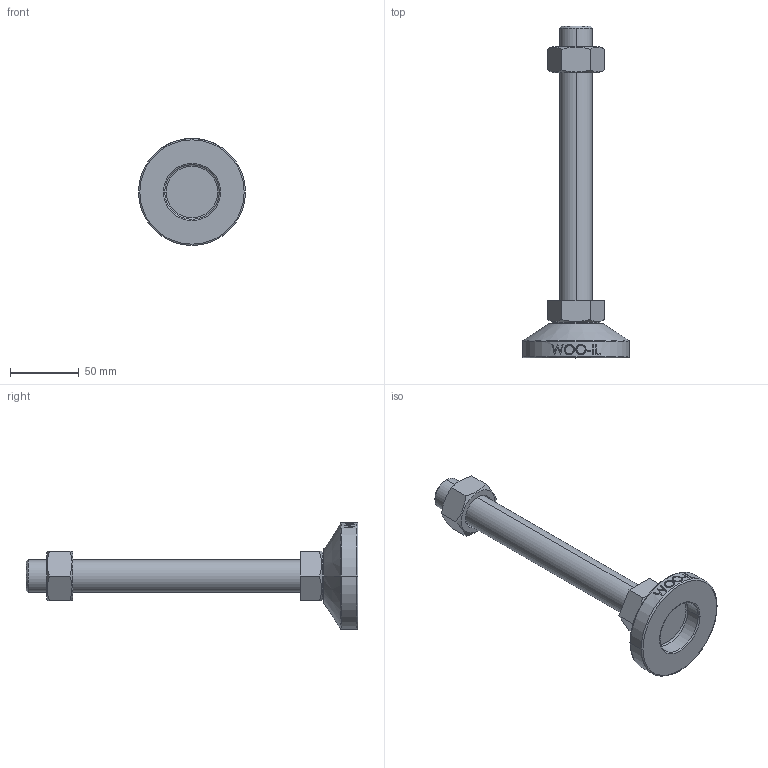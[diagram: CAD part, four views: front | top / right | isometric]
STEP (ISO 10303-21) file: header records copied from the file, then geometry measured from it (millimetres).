
FILE_DESCRIPTION (( 'STEP AP214' ), '1' );
FILE_NAME ('MF78-M24-200.step', '2021-02-03T08:22:29', ( '' ), ( '' ), 'SwSTEP 2.0', 'SolidWorks 2019', '' );
FILE_SCHEMA (( 'AUTOMOTIVE_DESIGN' ));
Length unit declared in the file: millimetre
Products named in the file (2): MF78-M24-200
Bounding box: 78 x 242 x 78 mm (x, y, z)
Volume: 200581.8 mm3; surface area: 38794.4 mm2
Topology: 3 solids, 3 shells, 106 faces, 247 edges, 158 vertices
Faces by surface type: plane 48, cylinder 18, bspline 16, cone 14, torus 10
Entity records: 4588 total; most frequent: CARTESIAN_POINT 2225, ORIENTED_EDGE 494, DIRECTION 439, EDGE_CURVE 247, AXIS2_PLACEMENT_3D 170, VERTEX_POINT 158, EDGE_LOOP 119, FACE_OUTER_BOUND 106
